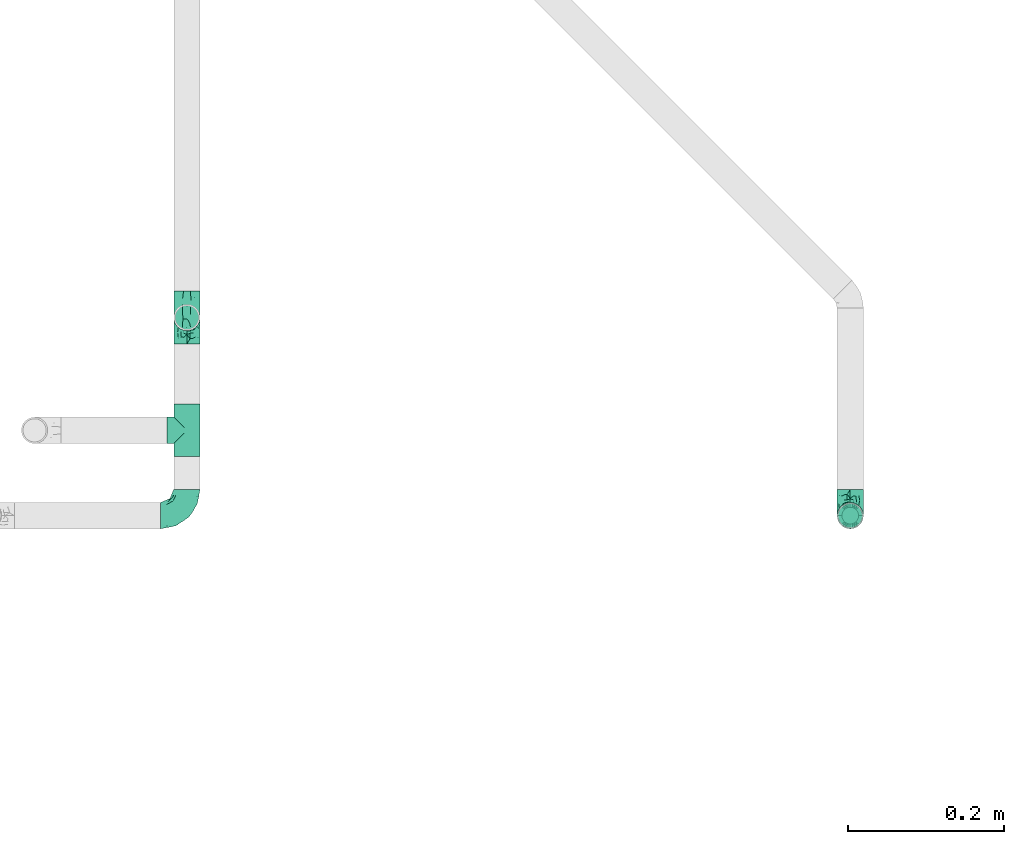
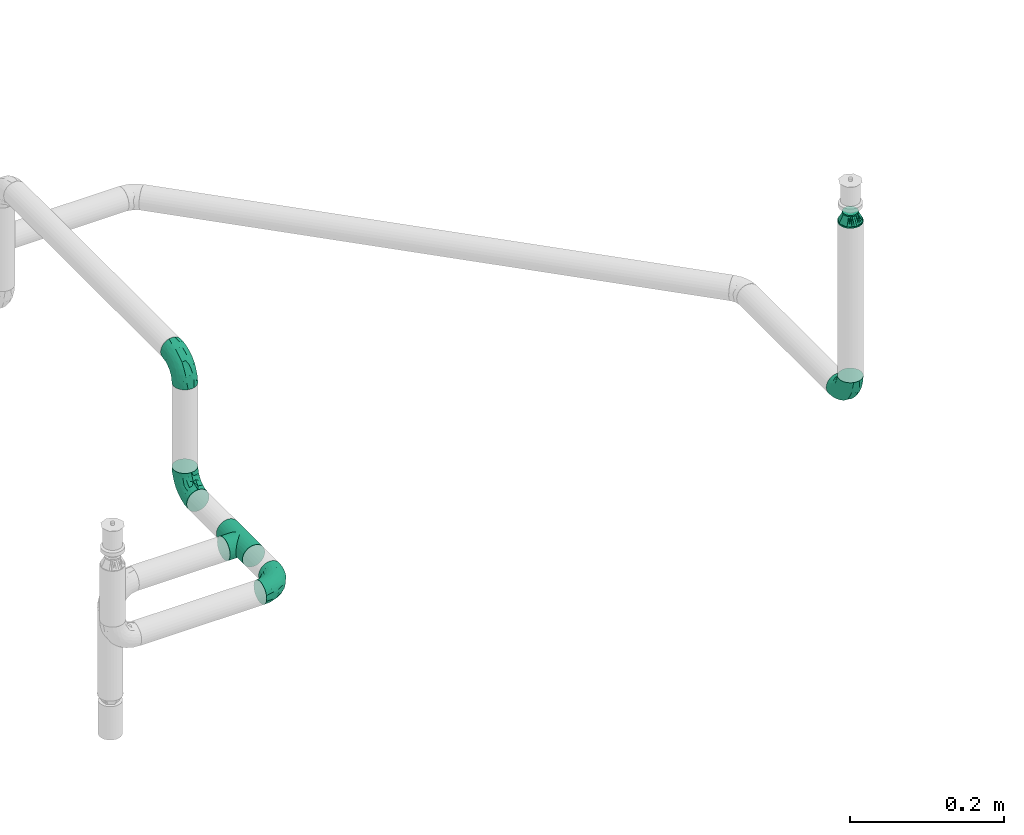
# One storey, part 38 of 157: 6 flow fittings.
"""IFC2X3 building model written with IfcOpenShell, lengths in millimetres."""

from ifc_helpers import new_model, entity, si_unit, converted_unit, derived_unit, direction, frame, origin_with_axes, place, context, subcontext, project, spatial, open_shell, surface_model, source, transform, mapped, type_object, element, save


model = new_model("IFC2X3")

# Units and contexts
model_context = context("Model", 3, precision=0.01, world=frame((0.0, 4.29681676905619e-09, 0.0)), true_north=direction((4.01073788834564e-13, 1.0)))
plan_context = context("Plan", 3, precision=0.01, world=frame((0.0, 4.29681676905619e-09, 0.0)), true_north=direction((4.01073788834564e-13, 1.0)))
body_context = subcontext(model_context, "Body", "Model", "MODEL_VIEW")
ifc_project = project(units=[converted_unit("PLANEANGLEUNIT", "DEGREE", entity("IfcPositiveLengthMeasure", 0.0174532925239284), si_unit("PLANEANGLEUNIT", "RADIAN"), dimensions=[0, 0, 0, 0, 0, 0, 0]), si_unit("AREAUNIT", "SQUARE_METRE"), si_unit("LENGTHUNIT", "METRE", prefix="MILLI"), si_unit("MASSUNIT", "GRAM", prefix="KILO"), si_unit("POWERUNIT", "WATT"), si_unit("PRESSUREUNIT", "PASCAL"), si_unit("FORCEUNIT", "NEWTON", prefix="KILO"), si_unit("ELECTRICCURRENTUNIT", "AMPERE"), si_unit("THERMODYNAMICTEMPERATUREUNIT", "DEGREE_CELSIUS"), si_unit("TIMEUNIT", "SECOND"), si_unit("VOLUMEUNIT", "CUBIC_METRE"), derived_unit("LINEARVELOCITYUNIT", [(si_unit("LENGTHUNIT", "METRE"), 1), (si_unit("TIMEUNIT", "SECOND"), -1)]), derived_unit("VOLUMETRICFLOWRATEUNIT", [(si_unit("VOLUMEUNIT", "CUBIC_METRE"), 1), (si_unit("TIMEUNIT", "SECOND"), -1)]), derived_unit("THERMALTRANSMITTANCEUNIT", [(si_unit("POWERUNIT", "WATT"), 1), (si_unit("THERMODYNAMICTEMPERATUREUNIT", "KELVIN"), -1), (si_unit("AREAUNIT", "SQUARE_METRE"), -1)])], contexts=[model_context, plan_context])

# Site, building, storey
site_placement = place(None, frame((0.0, -4.29681676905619e-09, 0.0), z_axis=(0.0, 0.0, 1.0), x_axis=(1.0, 0.0, 0.0)))
site = spatial("IfcSite", under=ifc_project, at=site_placement, CompositionType="ELEMENT")
building_placement = place(site_placement, frame((0.0, 4.29681676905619e-09, 0.0), z_axis=(0.0, 0.0, 1.0), x_axis=(1.0, 0.0, 0.0)))
building = spatial("IfcBuilding", under=site, at=building_placement, Name="mc-building", CompositionType="ELEMENT")
storey_placement = place(building_placement, frame((0.0, 0.0, 204000.0), z_axis=(0.0, 0.0, 1.0), x_axis=(1.0, 0.0, 0.0)))
storey = spatial("IfcBuildingStorey", under=building, at=storey_placement, Name="Nivå D", CompositionType="ELEMENT", Elevation=204000.0)

# Flow fittings
pipe_fitting_type_1 = type_object("IfcPipeFittingType", Name="magi_pipe_fe_tee_centric_90_NOR", PredefinedType="JUNCTION")
shared_shape_1 = source(origin_with_axes(), body_context, "Body", "SurfaceModel", [
    surface_model("IfcShellBasedSurfaceModel", [(-33.8, 4.37404, -16.32415), (-33.8, 0.0, -16.9), (-33.8, 16.32415, -4.37404), (-33.8, 8.45, -14.63583), (-33.8, 11.9501, -11.9501), (-33.8, 14.63583, -8.45), (-33.8, -16.9, 0.0), (-33.8, -11.9501, -11.9501), (-33.8, -14.63583, -8.45), (-33.8, -8.45, -14.63583), (-33.8, -4.37404, -16.32415), (-33.8, -16.32415, -4.37404), (-33.8, 14.63583, 8.45), (-33.8, 16.32415, 4.37404), (-33.8, -8.45, 14.63583), (-33.8, 8.45, 14.63583), (-33.8, 11.9501, 11.9501), (-33.8, 4.37404, 16.32415), (-33.8, 0.0, 16.9), (-33.8, -11.9501, 11.9501), (-33.8, -14.63583, 8.45), (-33.8, -16.32415, 4.37404), (-33.8, -4.37404, 16.32415), (-33.8, 16.9, 0.0), (33.8, 4.37404, -16.32415), (33.8, -16.9, 0.0), (33.8, 0.0, -16.9), (33.8, 14.63583, -8.45), (33.8, 8.45, -14.63583), (33.8, 16.32415, -4.37404), (33.8, 11.9501, -11.9501), (33.8, -16.32415, 4.37404), (33.8, -8.45, -14.63583), (33.8, -4.37404, -16.32415), (33.8, -11.9501, -11.9501), (33.8, -14.63583, -8.45), (33.8, -16.32415, -4.37404), (33.8, 16.32415, 4.37404), (33.8, 8.45, 14.63583), (33.8, 14.63583, 8.45), (33.8, 11.9501, 11.9501), (33.8, -8.45, 14.63583), (33.8, 4.37404, 16.32415), (33.8, -14.63583, 8.45), (33.8, -11.9501, 11.9501), (33.8, 0.0, 16.9), (33.8, -4.37404, 16.32415), (33.8, 16.9, 0.0), (16.28698, -16.28698, 4.51047), (16.9, -16.9, 0.0), (14.62704, -14.62704, 8.4652), (9.47213, -9.47213, 13.99602), (12.26343, -12.26343, 11.62834), (-16.9, -16.9, 0.0), (-16.28698, -16.28698, 4.51047), (-14.62704, -14.62704, 8.4652), (-12.26343, -12.26343, 11.62834), (-9.47213, -9.47213, 13.99602), (-6.42894, -6.42894, 15.62942), (6.42894, -6.42894, 15.62942), (3.24522, -3.24522, 16.58549), (0.0, 0.0, 16.9), (-3.24522, -3.24522, 16.58549), (3.24522, -3.24522, -16.58549), (0.0, 0.0, -16.9), (-3.24522, -3.24522, -16.58549), (-6.42894, -6.42894, -15.62942), (6.42894, -6.42894, -15.62942), (9.47213, -9.47213, -13.99602), (12.26343, -12.26343, -11.62834), (14.62704, -14.62704, -8.4652), (16.28698, -16.28698, -4.51047), (-9.47213, -9.47213, -13.99602), (-12.26343, -12.26343, -11.62834), (-16.28698, -16.28698, -4.51047), (-14.62704, -14.62704, -8.4652), (4.37404, -25.35, -16.32415), (-16.9, -25.35, 0.0), (0.0, -25.35, -16.9), (14.63583, -25.35, -8.45), (8.45, -25.35, -14.63583), (16.32415, -25.35, -4.37404), (11.9501, -25.35, -11.9501), (-11.9501, -25.35, -11.9501), (-8.45, -25.35, -14.63583), (-4.37404, -25.35, -16.32415), (-14.63583, -25.35, -8.45), (-16.32415, -25.35, -4.37404), (16.9, -25.35, 0.0), (8.45, -25.35, 14.63583), (16.32415, -25.35, 4.37404), (14.63583, -25.35, 8.45), (-8.45, -25.35, 14.63583), (11.9501, -25.35, 11.9501), (4.37404, -25.35, 16.32415), (-16.32415, -25.35, 4.37404), (-11.9501, -25.35, 11.9501), (-14.63583, -25.35, 8.45), (0.0, -25.35, 16.9), (-4.37404, -25.35, 16.32415)], [open_shell([[[0, 1, 2]], [[3, 0, 4]], [[0, 2, 5]], [[4, 0, 5]], [[6, 2, 1]], [[7, 8, 9]], [[1, 10, 9]], [[11, 6, 8]], [[1, 9, 8]], [[1, 8, 6]], [[6, 12, 2]], [[12, 13, 2]], [[14, 12, 6]], [[12, 14, 15]], [[16, 12, 15]], [[17, 15, 18]], [[19, 14, 20]], [[21, 20, 14]], [[22, 18, 14]], [[14, 6, 21]], [[14, 18, 15]], [[23, 2, 13]], [[24, 25, 26]], [[27, 24, 28]], [[27, 29, 24]], [[27, 28, 30]], [[31, 25, 24]], [[26, 32, 33]], [[26, 34, 32]], [[35, 25, 36]], [[35, 34, 26]], [[25, 35, 26]], [[24, 29, 31]], [[29, 37, 38]], [[38, 37, 39]], [[38, 31, 29]], [[38, 39, 40]], [[41, 38, 42]], [[43, 41, 44]], [[41, 43, 31]], [[41, 45, 46]], [[41, 31, 38]], [[42, 45, 41]], [[29, 47, 37]], [[31, 43, 48]], [[25, 31, 49]], [[49, 31, 48]], [[43, 50, 48]], [[44, 41, 51]], [[50, 43, 52]], [[51, 52, 44]], [[52, 43, 44]], [[53, 54, 21]], [[53, 21, 6]], [[21, 54, 20]], [[54, 55, 20]], [[56, 57, 19]], [[19, 20, 56]], [[19, 57, 14]], [[56, 20, 55]], [[14, 57, 58]], [[51, 41, 59]], [[60, 45, 61]], [[59, 46, 60]], [[46, 59, 41]], [[60, 46, 45]], [[61, 45, 42]], [[39, 37, 13]], [[16, 38, 40]], [[12, 40, 39]], [[42, 38, 15]], [[23, 37, 47]], [[62, 61, 18]], [[62, 22, 58]], [[22, 62, 18]], [[58, 22, 14]], [[61, 17, 18]], [[42, 17, 61]], [[15, 17, 42]], [[15, 38, 16]], [[12, 16, 40]], [[13, 12, 39]], [[37, 23, 13]], [[5, 27, 30]], [[23, 47, 29]], [[30, 28, 3]], [[27, 2, 29]], [[26, 33, 63]], [[26, 64, 24]], [[64, 26, 63]], [[28, 24, 0]], [[64, 0, 24]], [[4, 30, 3]], [[2, 27, 5]], [[5, 30, 4]], [[2, 23, 29]], [[65, 66, 10]], [[1, 0, 64]], [[1, 65, 10]], [[66, 9, 10]], [[0, 3, 28]], [[1, 64, 65]], [[63, 33, 67]], [[32, 34, 68]], [[69, 68, 34]], [[35, 70, 69]], [[69, 34, 35]], [[32, 68, 67]], [[36, 25, 49]], [[36, 71, 35]], [[71, 36, 49]], [[35, 71, 70]], [[72, 9, 66]], [[72, 7, 9]], [[7, 72, 73]], [[7, 73, 8]], [[74, 53, 11]], [[75, 74, 8]], [[74, 11, 8]], [[11, 53, 6]], [[75, 8, 73]], [[32, 67, 33]], [[76, 77, 78]], [[79, 76, 80]], [[79, 81, 76]], [[79, 80, 82]], [[77, 76, 81]], [[78, 83, 84]], [[84, 85, 78]], [[86, 77, 87]], [[83, 78, 86]], [[77, 86, 78]], [[81, 88, 77]], [[89, 88, 90]], [[89, 90, 91]], [[92, 77, 89]], [[89, 91, 93]], [[92, 89, 94]], [[95, 96, 97]], [[96, 95, 92]], [[92, 98, 99]], [[95, 77, 92]], [[94, 98, 92]], [[89, 77, 88]], [[77, 95, 53]], [[54, 53, 95]], [[97, 96, 56]], [[96, 92, 57]], [[95, 97, 54]], [[58, 92, 99]], [[55, 54, 97]], [[56, 55, 97]], [[58, 57, 92]], [[98, 61, 62]], [[58, 99, 62]], [[56, 96, 57]], [[62, 99, 98]], [[94, 60, 98]], [[89, 59, 94]], [[91, 90, 48]], [[52, 93, 91]], [[93, 51, 89]], [[49, 90, 88]], [[59, 60, 94]], [[51, 59, 89]], [[49, 48, 90]], [[50, 52, 91]], [[48, 50, 91]], [[51, 93, 52]], [[98, 60, 61]], [[88, 81, 49]], [[71, 49, 81]], [[79, 82, 69]], [[82, 80, 68]], [[81, 79, 71]], [[67, 80, 76]], [[70, 71, 79]], [[69, 70, 79]], [[67, 68, 80]], [[78, 64, 63]], [[67, 76, 63]], [[69, 82, 68]], [[63, 76, 78]], [[85, 65, 78]], [[84, 66, 85]], [[86, 87, 74]], [[86, 73, 83]], [[72, 84, 83]], [[53, 87, 77]], [[66, 65, 85]], [[72, 66, 84]], [[53, 74, 87]], [[75, 73, 86]], [[74, 75, 86]], [[72, 83, 73]], [[78, 65, 64]]])]),
])
flow_fitting_1_placement = place(storey_placement, frame((524695.35, 408200.0, 2880.0), z_axis=(0.0, 0.0, -1.0), x_axis=(0.0, 1.0, 0.0)))
element("IfcFlowFitting", 1, at=flow_fitting_1_placement, inside=storey, type_object=pipe_fitting_type_1, Name="magi_pipe_fe_tee_centric_90_NOR", context=body_context, shape_type="MappedRepresentation", body=[
    mapped(shared_shape_1, transform((0.0, 0.0, 0.0), scale=1.0)),
])
pipe_fitting_type_2 = type_object("IfcPipeFittingType", Name="magi_pipe_fe_elbow_short_001", PredefinedType="BEND")
shared_shape_2 = source(origin_with_axes(), body_context, "Body", "SurfaceModel", [
    surface_model("IfcShellBasedSurfaceModel", [(-33.8, 8.45, -14.63583), (-33.8, 4.37404, -16.32415), (-33.8, 11.9501, -11.9501), (-33.8, -11.9501, -11.9501), (-33.8, -14.63583, -8.45), (-33.8, -8.45, -14.63583), (-33.8, 0.0, -16.9), (-33.8, -4.37404, -16.32415), (-33.8, -4.37404, 16.32415), (-33.8, 0.0, 16.9), (-33.8, -8.45, 14.63583), (-33.8, 16.32415, -4.37404), (-33.8, 14.63583, -8.45), (-33.8, -16.32415, -4.37404), (-33.8, -16.9, 0.0), (-33.8, -16.32415, 4.37404), (-33.8, 11.9501, 11.9501), (-33.8, 14.63583, 8.45), (-33.8, 16.32415, 4.37404), (-33.8, 4.37404, 16.32415), (-33.8, 8.45, 14.63583), (-33.8, -14.63583, 8.45), (-33.8, -11.9501, 11.9501), (-33.8, 16.9, 0.0), (-11.9501, 33.8, -11.9501), (0.0, 33.8, -16.9), (-4.37404, 33.8, -16.32415), (-8.45, 33.8, -14.63583), (-14.63583, 33.8, -8.45), (-16.32415, 33.8, -4.37404), (14.63583, 33.8, -8.45), (8.45, 33.8, 14.63583), (16.32415, 33.8, -4.37404), (8.45, 33.8, -14.63583), (11.9501, 33.8, -11.9501), (4.37404, 33.8, -16.32415), (16.32415, 33.8, 4.37404), (16.9, 33.8, 0.0), (-11.9501, 33.8, 11.9501), (-16.32415, 33.8, 4.37404), (-14.63583, 33.8, 8.45), (-8.45, 33.8, 14.63583), (-4.37404, 33.8, 16.32415), (11.9501, 33.8, 11.9501), (14.63583, 33.8, 8.45), (0.0, 33.8, 16.9), (4.37404, 33.8, 16.32415), (-16.9, 33.8, 0.0), (-24.79389, -13.12945, 9.48721), (-22.19287, -9.75018, 12.59315), (-24.09897, -14.97035, 0.0), (-14.93934, -10.76256, 8.5297), (-22.46095, -14.75051, 5.27077), (14.75051, 22.46094, 5.27077), (11.9251, 13.23888, 4.33236), (13.04069, 14.39795, 0.0), (7.71387, 13.68847, 11.55891), (9.75018, 22.19287, 12.59315), (4.10169, 13.0571, 14.04018), (-24.84007, -6.39063, 15.2048), (-25.81779, -2.23879, 16.61097), (-23.66549, 2.59054, 16.87119), (-26.50418, 14.06512, 11.08152), (-24.21253, 17.66365, 7.72657), (-29.58514, 15.86957, 7.00283), (-6.17382, -7.5455, 0.0), (-13.23888, -11.9251, 4.33236), (-14.39795, -13.04069, 0.0), (-17.81434, 18.87373, 11.97104), (-6.30846, 29.15138, 15.82987), (-2.31622, 25.28002, 16.85849), (-29.23923, 10.23435, 13.77053), (-1.45439, -2.85688, 7.61475), (-0.28326, 0.34872, 10.09509), (-5.74484, -4.04709, 10.4122), (-4.41137, 11.31918, 16.59407), (-8.39727, 3.10034, 15.7812), (-1.72649, 9.1306, 15.53089), (-17.39909, 24.75344, 7.64977), (-26.19233, 20.0512, 0.0), (-28.14518, 17.29657, 4.25857), (-26.05147, 6.6281, 15.96447), (-5.87354, 16.61944, 16.86968), (-12.51807, 12.51807, 16.48937), (-10.06312, 7.38516, 16.81295), (-3.01882, 3.01882, 13.81718), (-13.0571, -4.10169, 14.04018), (-16.82553, -0.15166, 16.38038), (10.76256, 14.93934, 8.5297), (13.12945, 24.79389, 9.48721), (6.39063, 24.84007, 15.2048), (2.23879, 25.81779, 16.61097), (-13.68847, -7.71387, 11.55891), (14.97035, 24.09897, 0.0), (-7.30894, 22.89991, 16.09489), (-10.67958, 26.17414, 14.008), (-12.78295, 18.26924, 15.06066), (-13.88562, 22.45231, 12.93244), (-18.04944, 15.16501, 14.04434), (-23.11658, 20.08178, 4.02986), (-21.84989, 21.84989, 0.0), (-18.55817, 25.48277, 3.93065), (-13.95142, 26.94732, 11.03289), (-18.57098, 7.23906, 16.59756), (-16.58335, 4.14122, 16.89279), (-17.96666, 11.46709, 15.63151), (-9.84453, 17.54304, 16.18938), (0.15166, 16.82553, 16.38038), (-23.27207, 11.47201, 14.23154), (3.84842, 5.86994, 10.70473), (-8.0212, -7.54413, 7.93275), (1.00345, -2.19508, 4.57414), (5.13203, 3.01004, 5.90201), (5.24161, 1.7543, 2.53265), (8.70457, 7.04947, 3.99182), (-20.0512, 26.19233, 0.0), (8.4852, 8.76699, 7.09296), (-4.55488, -6.72064, 4.90681), (2.05031, -2.05031, 0.0), (7.5455, 6.17382, 0.0), (-26.75399, 2.1369, -16.845), (-14.61995, 24.73803, -11.27736), (-28.45274, -13.45335, -9.81895), (-26.00469, 6.63555, -15.96645), (-23.06726, 20.04573, -4.26202), (-13.80647, -4.26506, -14.17873), (-14.67501, -0.21081, -16.07388), (-6.7902, -0.2828, -13.8478), (-24.53586, 11.08096, -14.13417), (-26.72048, 14.00837, -11.05776), (10.0967, 24.44989, -12.75976), (5.83237, 21.40218, -15.03047), (6.66249, 28.54238, -15.38093), (-20.38182, 15.48705, -12.74596), (12.53268, 21.23441, -9.15363), (12.54494, 15.67504, -5.54878), (9.7522, 12.89279, -8.66343), (-15.65186, 19.64213, -13.01327), (-12.03528, 20.66498, -14.67665), (-15.61907, 15.61906, -14.83879), (-25.56551, -15.26206, 0.0), (-24.65452, -15.12934, -5.50955), (13.45335, 28.45274, -9.81895), (15.12934, 24.65452, -5.50955), (-7.35442, -8.31014, -5.65563), (-15.67504, -12.54494, -5.54878), (-24.44989, -10.0967, -12.75976), (0.16522, 0.41303, -9.71728), (-5.70658, -5.33066, -8.89288), (-5.13869, -2.37198, -11.53565), (-21.23441, -12.53268, -9.15363), (0.71146, 7.93863, -14.09382), (0.21081, 14.67501, -16.07388), (3.49291, 14.42772, -14.76381), (-24.89911, -2.13088, -16.591), (-28.54238, -6.66249, -15.38093), (-18.44386, -7.71663, -13.26957), (2.13088, 24.89911, -16.591), (-28.64342, 17.44413, -2.89318), (1.70017, -1.28722, -5.09504), (-16.57067, 26.81947, -7.36596), (-17.69055, 27.4263, -3.76405), (-12.89279, -9.7522, -8.66343), (-5.96611, 5.96611, -15.95814), (-20.53709, 20.09345, -8.28985), (-2.1369, 26.75399, -16.845), (-6.89872, 24.58781, -16.02578), (-10.60739, 26.53157, -13.98044), (-21.40218, -5.83237, -15.03047), (2.93192, 5.89627, -11.55917), (6.89393, 12.61842, -11.82233), (5.58056, 5.95325, -8.79455), (-3.99512, 18.61798, -16.89635), (8.31014, 7.35442, -5.65563), (-9.1383, 9.86148, -16.89041), (-9.99983, 16.02119, -16.39699), (-16.68576, 9.78031, -16.34199), (-27.01915, 16.61158, -7.12979), (15.26206, 25.56551, 0.0), (-18.61798, 3.99512, -16.89635), (-19.37495, 27.82495, 0.0), (-12.61842, -6.89393, -11.82233), (-18.84705, 19.14018, -10.96545)], [open_shell([[[0, 1, 2]], [[3, 4, 5]], [[6, 7, 5]], [[8, 9, 10]], [[1, 6, 2]], [[11, 12, 2]], [[4, 2, 6]], [[2, 13, 10]], [[5, 4, 6]], [[2, 4, 13]], [[14, 15, 13]], [[11, 2, 16]], [[11, 17, 18]], [[11, 16, 17]], [[19, 20, 16]], [[16, 2, 10]], [[19, 16, 10]], [[21, 22, 15]], [[22, 13, 15]], [[22, 10, 13]], [[10, 9, 19]], [[11, 18, 23]], [[24, 25, 26]], [[24, 26, 27]], [[24, 28, 29]], [[25, 24, 30]], [[31, 32, 24]], [[33, 30, 34]], [[33, 35, 25]], [[25, 30, 33]], [[32, 30, 24]], [[32, 36, 37]], [[38, 24, 29]], [[39, 40, 29]], [[40, 38, 29]], [[38, 41, 42]], [[38, 31, 24]], [[31, 38, 42]], [[36, 43, 44]], [[36, 32, 43]], [[31, 45, 46]], [[32, 31, 43]], [[42, 45, 31]], [[39, 29, 47]], [[22, 48, 49]], [[15, 14, 50]], [[51, 48, 52]], [[53, 54, 55]], [[48, 22, 21]], [[15, 52, 21]], [[56, 57, 58]], [[49, 10, 22]], [[49, 59, 10]], [[9, 60, 61]], [[62, 63, 64]], [[65, 66, 67]], [[57, 43, 31]], [[62, 68, 63]], [[42, 69, 70]], [[20, 71, 16]], [[8, 60, 9]], [[72, 73, 74]], [[75, 76, 77]], [[16, 62, 17]], [[40, 39, 78]], [[79, 23, 80]], [[64, 18, 17]], [[9, 61, 19]], [[19, 81, 20]], [[82, 83, 84]], [[74, 85, 86]], [[59, 86, 87]], [[88, 89, 57]], [[90, 31, 46]], [[44, 53, 36]], [[46, 45, 91]], [[54, 53, 88]], [[44, 89, 53]], [[92, 86, 49]], [[89, 44, 43]], [[10, 59, 8]], [[53, 55, 93]], [[93, 36, 53]], [[66, 52, 67]], [[94, 82, 70]], [[95, 96, 94]], [[97, 98, 96]], [[79, 99, 100]], [[41, 38, 95]], [[101, 100, 99]], [[68, 78, 63]], [[42, 41, 69]], [[23, 18, 80]], [[95, 94, 69]], [[78, 101, 99]], [[38, 102, 95]], [[70, 45, 42]], [[97, 95, 102]], [[15, 50, 52]], [[90, 57, 31]], [[57, 90, 58]], [[81, 19, 61]], [[103, 104, 84]], [[105, 81, 103]], [[38, 40, 102]], [[106, 96, 83]], [[94, 106, 82]], [[91, 70, 107]], [[71, 62, 16]], [[62, 108, 98]], [[86, 59, 49]], [[67, 52, 50]], [[60, 59, 87]], [[92, 49, 51]], [[86, 85, 76]], [[91, 90, 46]], [[37, 36, 93]], [[107, 77, 58]], [[107, 58, 90]], [[58, 85, 109]], [[110, 74, 92]], [[72, 74, 110]], [[66, 51, 52]], [[72, 111, 112]], [[113, 114, 112]], [[56, 88, 57]], [[52, 48, 21]], [[49, 48, 51]], [[57, 89, 43]], [[53, 89, 88]], [[103, 81, 61]], [[71, 81, 108]], [[18, 64, 80]], [[63, 78, 99]], [[47, 115, 101]], [[101, 115, 100]], [[40, 78, 102]], [[68, 102, 78]], [[97, 96, 95]], [[105, 98, 108]], [[103, 84, 83]], [[107, 70, 82]], [[76, 84, 87]], [[82, 84, 75]], [[70, 91, 45]], [[90, 91, 107]], [[59, 60, 8]], [[61, 60, 87]], [[73, 85, 74]], [[109, 112, 116]], [[103, 61, 104]], [[105, 103, 83]], [[96, 105, 83]], [[81, 105, 108]], [[96, 98, 105]], [[62, 98, 68]], [[61, 87, 104]], [[87, 84, 104]], [[86, 76, 87]], [[77, 76, 85]], [[58, 77, 85]], [[75, 77, 107]], [[82, 75, 107]], [[76, 75, 84]], [[81, 71, 20]], [[62, 71, 108]], [[95, 69, 41]], [[70, 69, 94]], [[62, 64, 17]], [[80, 63, 99]], [[63, 80, 64]], [[80, 99, 79]], [[66, 65, 117]], [[110, 66, 117]], [[112, 114, 116]], [[118, 117, 65]], [[110, 92, 51]], [[112, 111, 113]], [[119, 55, 54]], [[74, 86, 92]], [[58, 109, 56]], [[116, 56, 109]], [[66, 110, 51]], [[72, 110, 117]], [[111, 72, 117]], [[73, 112, 109]], [[117, 118, 111]], [[113, 111, 118]], [[118, 119, 113]], [[114, 119, 54]], [[119, 114, 113]], [[116, 54, 88]], [[54, 116, 114]], [[116, 88, 56]], [[112, 73, 72]], [[85, 73, 109]], [[78, 39, 101]], [[47, 101, 39]], [[102, 68, 97]], [[97, 68, 98]], [[82, 106, 83]], [[94, 96, 106]], [[1, 120, 6]], [[28, 24, 121]], [[3, 122, 4]], [[0, 123, 1]], [[100, 124, 79]], [[125, 126, 127]], [[128, 2, 129]], [[130, 131, 132]], [[128, 129, 133]], [[134, 135, 136]], [[137, 138, 139]], [[128, 0, 2]], [[67, 140, 141]], [[134, 142, 143]], [[141, 13, 4]], [[144, 65, 145]], [[146, 3, 5]], [[147, 148, 149]], [[145, 141, 150]], [[151, 152, 153]], [[154, 7, 6]], [[5, 155, 146]], [[150, 146, 156]], [[155, 5, 7]], [[143, 135, 134]], [[35, 157, 25]], [[23, 79, 158]], [[148, 159, 144]], [[160, 161, 29]], [[145, 162, 144]], [[163, 152, 151]], [[29, 28, 160]], [[121, 164, 160]], [[33, 34, 130]], [[25, 165, 26]], [[26, 165, 166]], [[142, 34, 30]], [[24, 27, 167]], [[124, 161, 164]], [[157, 35, 132]], [[155, 154, 168]], [[123, 0, 128]], [[169, 170, 171]], [[172, 157, 152]], [[26, 166, 27]], [[132, 35, 33]], [[142, 130, 34]], [[168, 154, 126]], [[136, 135, 173]], [[133, 137, 139]], [[2, 12, 129]], [[170, 131, 130]], [[30, 32, 143]], [[172, 174, 175]], [[176, 123, 128]], [[158, 177, 11]], [[135, 55, 119]], [[167, 27, 166]], [[175, 166, 172]], [[137, 167, 138]], [[122, 141, 4]], [[140, 14, 13]], [[32, 37, 178]], [[170, 130, 134]], [[152, 157, 131]], [[165, 157, 172]], [[153, 170, 151]], [[152, 163, 174]], [[168, 125, 156]], [[122, 146, 150]], [[120, 154, 6]], [[179, 174, 126]], [[179, 126, 154]], [[126, 163, 127]], [[162, 145, 150]], [[140, 13, 141]], [[32, 178, 143]], [[55, 143, 178]], [[177, 129, 12]], [[128, 133, 139]], [[176, 128, 139]], [[120, 123, 179]], [[121, 160, 28]], [[161, 100, 180]], [[166, 175, 138]], [[121, 24, 167]], [[161, 47, 29]], [[79, 124, 158]], [[124, 164, 177]], [[161, 124, 100]], [[136, 171, 170]], [[127, 163, 151]], [[147, 171, 159]], [[148, 144, 162]], [[127, 151, 169]], [[127, 181, 125]], [[129, 177, 164]], [[12, 11, 177]], [[159, 65, 144]], [[67, 141, 145]], [[143, 55, 135]], [[135, 119, 173]], [[123, 120, 1]], [[154, 120, 179]], [[157, 165, 25]], [[166, 165, 172]], [[172, 152, 174]], [[176, 139, 175]], [[126, 174, 163]], [[176, 174, 179]], [[174, 176, 175]], [[123, 176, 179]], [[150, 181, 162]], [[127, 149, 181]], [[181, 148, 162]], [[159, 148, 147]], [[171, 136, 173]], [[170, 134, 136]], [[159, 171, 173]], [[171, 147, 169]], [[169, 147, 149]], [[151, 170, 169]], [[164, 182, 129]], [[182, 121, 137]], [[181, 149, 148]], [[169, 149, 127]], [[182, 137, 133]], [[167, 137, 121]], [[166, 138, 167]], [[175, 139, 138]], [[129, 182, 133]], [[121, 182, 164]], [[161, 160, 164]], [[47, 161, 180]], [[177, 158, 124]], [[23, 158, 11]], [[130, 132, 33]], [[157, 132, 131]], [[143, 142, 30]], [[130, 142, 134]], [[154, 155, 7]], [[146, 155, 168]], [[146, 122, 3]], [[141, 122, 150]], [[152, 131, 153]], [[159, 119, 118]], [[67, 145, 65]], [[170, 153, 131]], [[119, 159, 173]], [[159, 118, 65]], [[156, 125, 181]], [[126, 125, 168]], [[150, 156, 181]], [[168, 156, 146]]])]),
])
for number, where, z_axis, x_axis, name in (
    (2, (524695.35, 408344.71922, 3080.0), (1.0, 0.0, 0.0), (0.0, -1.0, 0.0), "magi_pipe_fe_elbow_short_001"),
    (3, (524695.35, 408344.71922, 2880.0), (-1.0, 0.0, 0.0), (0.0, 0.0, -1.0), "magi_pipe_fe_elbow_short_001"),
    (4, (524695.35, 408090.6375, 2880.0), (0.0, 0.0, 1.0), (1.0, 0.0, 0.0), "magi_pipe_fe_elbow_short_001"),
    (5, (525545.79264, 408090.6375, 2880.0), (1.0, 0.0, 0.0), (0.0, 0.0, -1.0), "magi_pipe_fe_elbow_short_001"),
):
    element("IfcFlowFitting", number, at=place(storey_placement, frame(where, z_axis=z_axis, x_axis=x_axis)), inside=storey, type_object=pipe_fitting_type_2, Name=name, context=body_context, shape_type="MappedRepresentation", body=[
        mapped(shared_shape_2, transform((0.0, 0.0, 0.0), scale=1.0)),
    ])
pipe_fitting_type_3 = type_object("IfcPipeFittingType", Name="magi_pipe_fe_reducer_centric_short_NOR", PredefinedType="TRANSITION")
shared_shape_3 = source(origin_with_axes(), body_context, "Body", "SurfaceModel", [
    surface_model("IfcShellBasedSurfaceModel", [(-2.0, -7.56604, -7.56604), (-2.0, -10.33541, -2.76936), (-2.0, -5.35, -9.26647), (-2.0, 5.35, -9.26647), (-2.0, 10.33541, -2.76936), (-2.0, 7.56604, -7.56604), (12.4, 11.9501, 11.9501), (12.4, 0.0, 16.9), (12.4, 11.9501, -11.9501), (12.4, 16.9, 0.0), (0.0, -10.7, 0.0), (0.0, -5.35, 9.26647), (0.0, -5.35, -9.26647), (0.0, 10.7, 0.0), (12.4, 15.66253, -2.98753), (12.4, 8.96258, -13.18758), (0.0, 6.6875, -6.94985), (12.4, -15.66253, -2.98753), (12.4, -16.9, 0.0), (12.4, 5.97505, -14.42505), (0.0, 5.35, -9.26647), (12.4, 14.42505, -5.97505), (0.0, 8.025, -4.63324), (0.0, 9.3625, -2.31662), (0.0, -9.3625, -2.31662), (0.0, -8.025, -4.63324), (12.4, -14.42505, -5.97505), (12.4, 13.18758, -8.96258), (12.4, -13.18758, -8.96258), (12.4, -11.9501, -11.9501), (0.0, -6.6875, -6.94985), (12.4, -8.96258, -13.18758), (12.4, -5.97505, -14.42505), (12.4, -15.66253, 2.98753), (12.4, -8.96258, 13.18758), (0.0, -6.6875, 6.94985), (12.4, -11.9501, 11.9501), (12.4, 15.66253, 2.98753), (12.4, -5.97505, 14.42505), (12.4, -14.42505, 5.97505), (0.0, -8.025, 4.63324), (0.0, -9.3625, 2.31662), (0.0, 9.3625, 2.31662), (0.0, 8.025, 4.63324), (12.4, 14.42505, 5.97505), (12.4, -13.18758, 8.96258), (12.4, 13.18758, 8.96258), (0.0, 6.6875, 6.94985), (12.4, 8.96258, 13.18758), (0.0, 5.35, 9.26647), (12.4, 5.97505, 14.42505), (14.4, 4.37404, -16.32415), (14.4, 8.45, -14.63583), (14.4, 11.9501, -11.9501), (14.4, -8.45, -14.63583), (14.4, 16.32415, -4.37404), (14.4, 16.32415, 4.37404), (14.4, 14.63583, -8.45), (14.4, 0.0, -16.9), (14.4, -4.37404, -16.32415), (14.4, -11.9501, -11.9501), (14.4, -16.32415, -4.37404), (14.4, -14.63583, -8.45), (14.4, -16.32415, 4.37404), (14.4, 16.9, 0.0), (14.4, 14.63583, 8.45), (14.4, 11.9501, 11.9501), (14.4, 4.37404, 16.32415), (14.4, 8.45, 14.63583), (14.4, 0.0, 16.9), (14.4, -14.63583, 8.45), (14.4, -16.9, 0.0), (14.4, -8.45, 14.63583), (14.4, -11.9501, 11.9501), (14.4, -4.37404, 16.32415), (12.4, 4.37404, 16.32415), (12.4, -14.63583, 8.45), (12.4, 16.32415, 4.37404), (12.4, 8.45, 14.63583), (12.4, 14.63583, 8.45), (12.4, -8.45, 14.63583), (12.4, -4.37404, 16.32415), (12.4, -16.32415, 4.37404), (12.4, -16.32415, -4.37404), (12.4, -8.45, -14.63583), (12.4, 16.32415, -4.37404), (12.4, 14.63583, -8.45), (12.4, 8.45, -14.63583), (12.4, 4.37404, -16.32415), (12.4, 0.0, -16.9), (12.4, -14.63583, -8.45), (12.4, -4.37404, -16.32415), (-2.0, 2.76936, 10.33541), (-2.0, 0.0, 10.7), (-2.0, 5.35, 9.26647), (-2.0, 7.56604, 7.56604), (-2.0, 9.26647, 5.35), (-2.0, 10.33541, 2.76936), (-2.0, -10.33541, 2.76936), (-2.0, -2.76936, 10.33541), (-2.0, -7.56604, 7.56604), (-2.0, -5.35, 9.26647), (-2.0, -9.26647, 5.35), (-2.0, -10.7, 0.0), (-2.0, 9.26647, -5.35), (-2.0, 2.76936, -10.33541), (-2.0, -9.26647, -5.35), (-2.0, 0.0, -10.7), (-2.0, -2.76936, -10.33541), (-2.0, 10.7, 0.0), (0.0, 0.0, -10.7), (0.0, 2.76936, -10.33541), (0.0, 10.33541, -2.76936), (0.0, 7.56604, -7.56604), (0.0, -10.33541, -2.76936), (0.0, 9.26647, -5.35), (0.0, 0.0, 10.7), (0.0, -2.76936, -10.33541), (0.0, -7.56604, -7.56604), (0.0, -9.26647, -5.35), (0.0, 10.33541, 2.76936), (0.0, 9.26647, 5.35), (0.0, 7.56604, 7.56604), (0.0, 2.76936, 10.33541), (0.0, -7.56604, 7.56604), (0.0, -10.33541, 2.76936), (0.0, -9.26647, 5.35), (0.0, -2.76936, 10.33541), (0.0, 2.675, -9.26647), (0.0, -2.675, -9.26647), (12.4, 2.98753, -15.66253), (0.0, 0.0, -9.26647), (12.4, -2.98753, -15.66253), (0.0, -2.675, 9.26647), (0.0, 2.675, 9.26647), (12.4, -2.98753, 15.66253), (0.0, 0.0, 9.26647), (12.4, 2.98753, 15.66253)], [open_shell([[[0, 1, 2]], [[3, 4, 5]], [[6, 7, 8]], [[8, 9, 6]], [[10, 11, 12]], [[13, 9, 14]], [[15, 16, 8]], [[17, 18, 10]], [[15, 19, 20]], [[21, 22, 23]], [[24, 25, 26]], [[22, 21, 27]], [[28, 26, 25]], [[29, 30, 31]], [[12, 32, 31]], [[10, 18, 33]], [[34, 35, 36]], [[37, 9, 13]], [[34, 38, 11]], [[39, 40, 41]], [[42, 43, 44]], [[40, 39, 45]], [[46, 44, 43]], [[6, 47, 48]], [[49, 50, 48]], [[51, 52, 53]], [[54, 51, 53]], [[53, 55, 56]], [[55, 53, 57]], [[53, 56, 54]], [[58, 54, 59]], [[58, 51, 54]], [[60, 61, 62]], [[61, 60, 54]], [[54, 63, 61]], [[56, 55, 64]], [[56, 65, 66]], [[56, 66, 67]], [[67, 63, 54]], [[67, 66, 68]], [[63, 67, 69]], [[69, 70, 63]], [[71, 61, 63]], [[70, 72, 73]], [[70, 69, 72]], [[72, 69, 74]], [[54, 56, 67]], [[75, 76, 7]], [[77, 75, 78]], [[6, 79, 77]], [[6, 77, 78]], [[76, 75, 77]], [[80, 76, 36]], [[80, 81, 7]], [[7, 76, 80]], [[82, 76, 77]], [[82, 83, 18]], [[82, 77, 84]], [[77, 85, 8]], [[8, 85, 86]], [[8, 87, 88]], [[84, 77, 8]], [[88, 89, 8]], [[83, 29, 90]], [[29, 83, 84]], [[84, 89, 91]], [[83, 82, 84]], [[8, 89, 84]], [[85, 77, 9]], [[83, 61, 18]], [[90, 62, 83]], [[54, 29, 84]], [[90, 29, 60]], [[59, 84, 91]], [[83, 62, 61]], [[61, 71, 18]], [[59, 54, 84]], [[60, 29, 54]], [[60, 62, 90]], [[58, 59, 91]], [[91, 89, 58]], [[88, 51, 89]], [[87, 52, 88]], [[57, 8, 86]], [[87, 8, 53]], [[55, 86, 85]], [[87, 53, 52]], [[52, 51, 88]], [[64, 55, 85]], [[57, 86, 55]], [[57, 53, 8]], [[9, 64, 85]], [[89, 51, 58]], [[77, 56, 9]], [[79, 65, 77]], [[68, 6, 78]], [[79, 6, 66]], [[67, 78, 75]], [[77, 65, 56]], [[56, 64, 9]], [[67, 68, 78]], [[66, 6, 68]], [[66, 65, 79]], [[69, 67, 75]], [[75, 7, 69]], [[81, 74, 7]], [[80, 72, 81]], [[70, 36, 76]], [[80, 36, 73]], [[63, 76, 82]], [[80, 73, 72]], [[72, 74, 81]], [[71, 63, 82]], [[70, 76, 63]], [[70, 73, 36]], [[18, 71, 82]], [[7, 74, 69]], [[92, 1, 93]], [[94, 1, 92]], [[95, 96, 97]], [[95, 97, 94]], [[98, 93, 1]], [[99, 100, 101]], [[99, 93, 100]], [[100, 98, 102]], [[93, 98, 100]], [[98, 1, 103]], [[94, 97, 1]], [[1, 97, 4]], [[5, 4, 104]], [[4, 3, 1]], [[105, 1, 3]], [[1, 0, 106]], [[2, 107, 108]], [[2, 1, 105]], [[105, 107, 2]], [[4, 97, 109]], [[20, 110, 111]], [[112, 20, 113]], [[114, 20, 112]], [[112, 113, 115]], [[116, 114, 112]], [[110, 12, 117]], [[110, 20, 12]], [[118, 114, 119]], [[114, 118, 12]], [[20, 114, 12]], [[112, 13, 120]], [[120, 121, 122]], [[120, 122, 123]], [[116, 112, 123]], [[123, 122, 49]], [[116, 124, 114]], [[125, 124, 126]], [[10, 114, 125]], [[124, 127, 11]], [[125, 114, 124]], [[127, 124, 116]], [[123, 112, 120]], [[1, 114, 103]], [[106, 119, 1]], [[12, 0, 2]], [[106, 0, 118]], [[117, 2, 108]], [[1, 119, 114]], [[114, 10, 103]], [[117, 12, 2]], [[118, 0, 12]], [[118, 119, 106]], [[110, 117, 108]], [[108, 107, 110]], [[105, 111, 107]], [[3, 20, 105]], [[115, 5, 104]], [[3, 5, 113]], [[112, 104, 4]], [[3, 113, 20]], [[20, 111, 105]], [[13, 112, 4]], [[115, 104, 112]], [[115, 113, 5]], [[109, 13, 4]], [[107, 111, 110]], [[97, 120, 109]], [[96, 121, 97]], [[49, 95, 94]], [[96, 95, 122]], [[123, 94, 92]], [[97, 121, 120]], [[120, 13, 109]], [[123, 49, 94]], [[122, 95, 49]], [[122, 121, 96]], [[116, 123, 92]], [[92, 93, 116]], [[99, 127, 93]], [[101, 11, 99]], [[126, 100, 102]], [[101, 100, 124]], [[125, 102, 98]], [[101, 124, 11]], [[11, 127, 99]], [[10, 125, 98]], [[126, 102, 125]], [[126, 124, 100]], [[103, 10, 98]], [[93, 127, 116]], [[18, 7, 36]], [[18, 29, 8]], [[89, 8, 29]], [[18, 8, 7]], [[13, 11, 49]], [[13, 20, 12]], [[13, 12, 11]], [[24, 26, 17]], [[10, 24, 17]], [[16, 15, 20]], [[30, 12, 31]], [[23, 14, 21]], [[19, 128, 20]], [[27, 8, 16]], [[32, 12, 129]], [[30, 28, 25]], [[130, 131, 128]], [[129, 132, 32]], [[16, 22, 27]], [[13, 14, 23]], [[128, 19, 130]], [[130, 89, 131]], [[131, 132, 129]], [[89, 132, 131]], [[28, 30, 29]], [[42, 44, 37]], [[13, 42, 37]], [[35, 34, 11]], [[47, 49, 48]], [[41, 33, 39]], [[38, 133, 11]], [[45, 36, 35]], [[50, 49, 134]], [[47, 46, 43]], [[135, 136, 133]], [[134, 137, 50]], [[35, 40, 45]], [[10, 33, 41]], [[133, 38, 135]], [[135, 7, 136]], [[136, 137, 134]], [[7, 137, 136]], [[46, 47, 6]]])]),
])
flow_fitting_2_placement = place(storey_placement, frame((525545.79264, 408090.6375, 3172.54800000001), z_axis=(0.0, -1.0, 0.0), x_axis=(0.0, 0.0, -1.0)))
element("IfcFlowFitting", 6, at=flow_fitting_2_placement, inside=storey, type_object=pipe_fitting_type_3, Name="magi_pipe_fe_reducer_centric_short_NOR", context=body_context, shape_type="MappedRepresentation", body=[
    mapped(shared_shape_3, transform((0.0, 0.0, 0.0), scale=1.0)),
])

save(model, "model.ifc")
